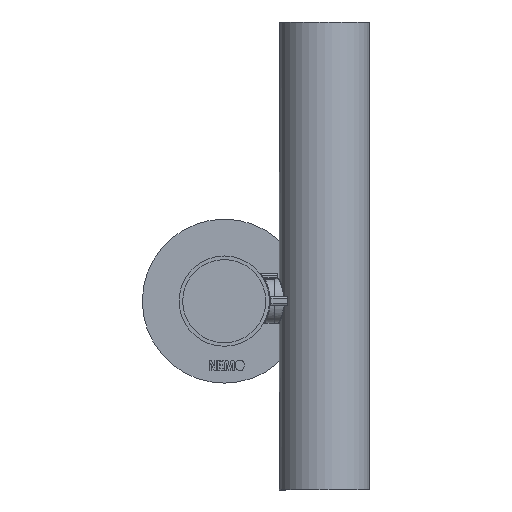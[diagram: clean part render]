
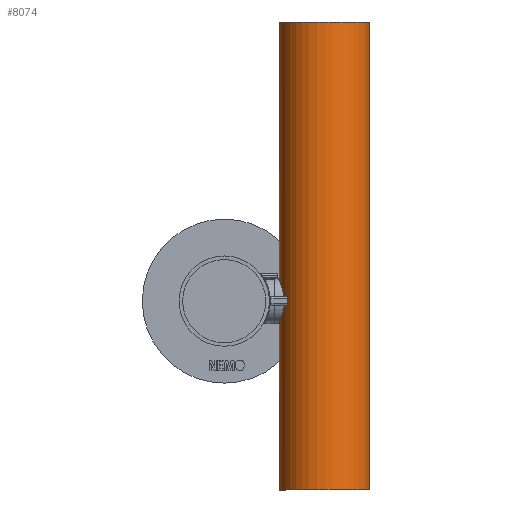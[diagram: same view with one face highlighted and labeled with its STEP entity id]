
A CAD part, front view. The second image highlights one B-rep face of the part: STEP entity #8074.
In plain terms, the highlighted cylindrical face has radius 19 mm (diameter 38 mm), a partial arc.
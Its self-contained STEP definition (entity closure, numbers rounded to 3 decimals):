
#6 = VERTEX_POINT ( 'NONE', #647 ) ;
#45 = B_SPLINE_CURVE_WITH_KNOTS ( 'NONE', 3,
 ( #2541, #9726, #1194, #11248, #3689, #12347 ),
 .UNSPECIFIED., .F., .F.,
 ( 4, 2, 4 ),
 ( 0., 0., 0.001 ),
 .UNSPECIFIED. ) ;
#358 = VERTEX_POINT ( 'NONE', #11427 ) ;
#566 = DIRECTION ( 'NONE',  ( 0., 0., -1. ) ) ;
#646 = VECTOR ( 'NONE', #3168, 1000. ) ;
#647 = CARTESIAN_POINT ( 'NONE',  ( 23.306, 0.5, -7.603 ) ) ;
#909 = CARTESIAN_POINT ( 'NONE',  ( 23.2, 2.5, 117.5 ) ) ;
#936 = VERTEX_POINT ( 'NONE', #12171 ) ;
#971 = ORIENTED_EDGE ( 'NONE', *, *, #1926, .F. ) ;
#1004 = CARTESIAN_POINT ( 'NONE',  ( 23.306, 0.5, -231. ) ) ;
#1025 = CARTESIAN_POINT ( 'NONE',  ( 61.2, 2.5, 117.5 ) ) ;
#1096 = VERTEX_POINT ( 'NONE', #4344 ) ;
#1190 = LINE ( 'NONE', #4174, #646 ) ;
#1194 = CARTESIAN_POINT ( 'NONE',  ( 23.301, 0.541, 7.832 ) ) ;
#1594 = EDGE_CURVE ( 'NONE', #5959, #8403, #10080, .T. ) ;
#1751 = ORIENTED_EDGE ( 'NONE', *, *, #7143, .T. ) ;
#1926 = EDGE_CURVE ( 'NONE', #1096, #7321, #45, .T. ) ;
#1951 = CARTESIAN_POINT ( 'NONE',  ( 23.267, 0.903, -8.094 ) ) ;
#2155 = CARTESIAN_POINT ( 'NONE',  ( 61.2, 2.5, -79.5 ) ) ;
#2541 = CARTESIAN_POINT ( 'NONE',  ( 23.306, 0.5, 7.603 ) ) ;
#3168 = DIRECTION ( 'NONE',  ( 0., 0., -1. ) ) ;
#3373 = CARTESIAN_POINT ( 'NONE',  ( 23.2, 1.968, 8.25 ) ) ;
#3663 = DIRECTION ( 'NONE',  ( 1., 0., 0. ) ) ;
#3689 = CARTESIAN_POINT ( 'NONE',  ( 23.277, 0.79, 8.072 ) ) ;
#3696 = EDGE_CURVE ( 'NONE', #8403, #5995, #1190, .T. ) ;
#3754 = DIRECTION ( 'NONE',  ( 0., 0., -1. ) ) ;
#4028 = CARTESIAN_POINT ( 'NONE',  ( 61.2, 2.5, -231. ) ) ;
#4174 = CARTESIAN_POINT ( 'NONE',  ( 23.2, 2.5, -231. ) ) ;
#4344 = CARTESIAN_POINT ( 'NONE',  ( 23.306, 0.5, 7.603 ) ) ;
#4716 = CARTESIAN_POINT ( 'NONE',  ( 23.223, 1.43, 8.198 ) ) ;
#4821 = DIRECTION ( 'NONE',  ( 0., 0., -1. ) ) ;
#4851 = EDGE_CURVE ( 'NONE', #5257, #13093, #6546, .T. ) ;
#4859 = CARTESIAN_POINT ( 'NONE',  ( 23.2, 2.5, -231. ) ) ;
#4910 = DIRECTION ( 'NONE',  ( 1., 0., 0. ) ) ;
#4987 = B_SPLINE_CURVE_WITH_KNOTS ( 'NONE', 3,
 ( #1951, #7772, #14672, #10063, #6467, #8938 ),
 .UNSPECIFIED., .F., .F.,
 ( 4, 2, 4 ),
 ( 0., 0., 0.001 ),
 .UNSPECIFIED. ) ;
#5058 = EDGE_LOOP ( 'NONE', ( #8945, #14289, #7316, #971, #1751, #10726, #5546, #6618, #9239, #10215 ) ) ;
#5202 = DIRECTION ( 'NONE',  ( 0., 0., -1. ) ) ;
#5227 = EDGE_CURVE ( 'NONE', #936, #6, #4987, .T. ) ;
#5257 = VERTEX_POINT ( 'NONE', #2155 ) ;
#5546 = ORIENTED_EDGE ( 'NONE', *, *, #11250, .T. ) ;
#5897 = LINE ( 'NONE', #4028, #14807 ) ;
#5914 = CARTESIAN_POINT ( 'NONE',  ( 23.267, 0.903, 8.094 ) ) ;
#5953 = CYLINDRICAL_SURFACE ( 'NONE', #14099, 19. ) ;
#5957 = LINE ( 'NONE', #1004, #8671 ) ;
#5959 = VERTEX_POINT ( 'NONE', #1025 ) ;
#5995 = VERTEX_POINT ( 'NONE', #6703 ) ;
#6135 = CARTESIAN_POINT ( 'NONE',  ( 23.267, 0.903, -8.094 ) ) ;
#6223 = VECTOR ( 'NONE', #10702, 1000. ) ;
#6426 = CARTESIAN_POINT ( 'NONE',  ( 42.2, 2.5, 117.5 ) ) ;
#6467 = CARTESIAN_POINT ( 'NONE',  ( 23.306, 0.5, -7.719 ) ) ;
#6546 = CIRCLE ( 'NONE', #13548, 19. ) ;
#6618 = ORIENTED_EDGE ( 'NONE', *, *, #13948, .T. ) ;
#6703 = CARTESIAN_POINT ( 'NONE',  ( 23.2, 2.5, 8.25 ) ) ;
#7012 = B_SPLINE_CURVE_WITH_KNOTS ( 'NONE', 3,
 ( #6135, #11877, #13658, #13203 ),
 .UNSPECIFIED., .F., .F.,
 ( 4, 4 ),
 ( 0., 0.002 ),
 .UNSPECIFIED. ) ;
#7143 = EDGE_CURVE ( 'NONE', #1096, #6, #5957, .T. ) ;
#7316 = ORIENTED_EDGE ( 'NONE', *, *, #9806, .T. ) ;
#7321 = VERTEX_POINT ( 'NONE', #5914 ) ;
#7772 = CARTESIAN_POINT ( 'NONE',  ( 23.277, 0.79, -8.072 ) ) ;
#8074 = ADVANCED_FACE ( 'NONE', ( #9767 ), #5953, .T. ) ;
#8403 = VERTEX_POINT ( 'NONE', #909 ) ;
#8671 = VECTOR ( 'NONE', #10328, 1000. ) ;
#8938 = CARTESIAN_POINT ( 'NONE',  ( 23.306, 0.5, -7.603 ) ) ;
#8945 = ORIENTED_EDGE ( 'NONE', *, *, #1594, .T. ) ;
#9163 = CARTESIAN_POINT ( 'NONE',  ( 23.2, 2.5, -79.5 ) ) ;
#9239 = ORIENTED_EDGE ( 'NONE', *, *, #4851, .F. ) ;
#9726 = CARTESIAN_POINT ( 'NONE',  ( 23.306, 0.5, 7.719 ) ) ;
#9767 = FACE_OUTER_BOUND ( 'NONE', #5058, .T. ) ;
#9806 = EDGE_CURVE ( 'NONE', #5995, #7321, #12954, .T. ) ;
#10063 = CARTESIAN_POINT ( 'NONE',  ( 23.301, 0.54, -7.832 ) ) ;
#10080 = CIRCLE ( 'NONE', #12745, 19. ) ;
#10215 = ORIENTED_EDGE ( 'NONE', *, *, #10954, .F. ) ;
#10328 = DIRECTION ( 'NONE',  ( 0., 0., -1. ) ) ;
#10702 = DIRECTION ( 'NONE',  ( 0., 0., -1. ) ) ;
#10726 = ORIENTED_EDGE ( 'NONE', *, *, #5227, .F. ) ;
#10954 = EDGE_CURVE ( 'NONE', #5959, #5257, #5897, .T. ) ;
#11248 = CARTESIAN_POINT ( 'NONE',  ( 23.286, 0.688, 8.011 ) ) ;
#11250 = EDGE_CURVE ( 'NONE', #936, #358, #7012, .T. ) ;
#11427 = CARTESIAN_POINT ( 'NONE',  ( 23.2, 2.5, -8.25 ) ) ;
#11469 = CARTESIAN_POINT ( 'NONE',  ( 23.267, 0.903, 8.094 ) ) ;
#11670 = CARTESIAN_POINT ( 'NONE',  ( 23.2, 2.5, 8.25 ) ) ;
#11711 = CARTESIAN_POINT ( 'NONE',  ( 42.2, 2.5, -79.5 ) ) ;
#11822 = CARTESIAN_POINT ( 'NONE',  ( 42.2, 2.5, -231. ) ) ;
#11877 = CARTESIAN_POINT ( 'NONE',  ( 23.223, 1.433, -8.199 ) ) ;
#12171 = CARTESIAN_POINT ( 'NONE',  ( 23.267, 0.903, -8.094 ) ) ;
#12225 = DIRECTION ( 'NONE',  ( 1., 0., 0. ) ) ;
#12347 = CARTESIAN_POINT ( 'NONE',  ( 23.267, 0.903, 8.094 ) ) ;
#12745 = AXIS2_PLACEMENT_3D ( 'NONE', #6426, #566, #12225 ) ;
#12954 = B_SPLINE_CURVE_WITH_KNOTS ( 'NONE', 3,
 ( #11670, #3373, #4716, #11469 ),
 .UNSPECIFIED., .F., .F.,
 ( 4, 4 ),
 ( 0.002, 0.003 ),
 .UNSPECIFIED. ) ;
#13093 = VERTEX_POINT ( 'NONE', #9163 ) ;
#13203 = CARTESIAN_POINT ( 'NONE',  ( 23.2, 2.5, -8.25 ) ) ;
#13548 = AXIS2_PLACEMENT_3D ( 'NONE', #11711, #3754, #4910 ) ;
#13658 = CARTESIAN_POINT ( 'NONE',  ( 23.2, 1.965, -8.25 ) ) ;
#13948 = EDGE_CURVE ( 'NONE', #358, #13093, #14570, .T. ) ;
#14099 = AXIS2_PLACEMENT_3D ( 'NONE', #11822, #4821, #3663 ) ;
#14289 = ORIENTED_EDGE ( 'NONE', *, *, #3696, .T. ) ;
#14570 = LINE ( 'NONE', #4859, #6223 ) ;
#14672 = CARTESIAN_POINT ( 'NONE',  ( 23.287, 0.687, -8.01 ) ) ;
#14807 = VECTOR ( 'NONE', #5202, 1000. ) ;
